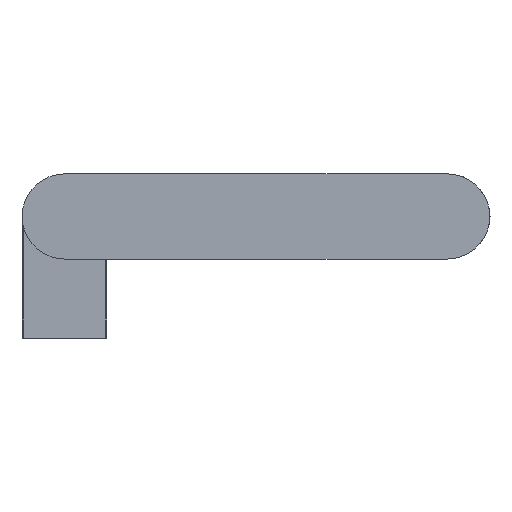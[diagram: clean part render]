
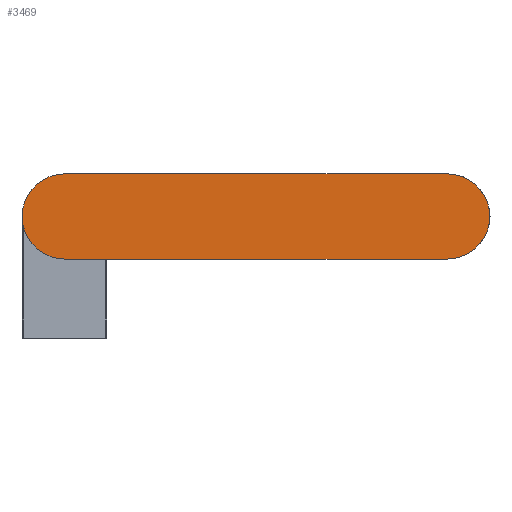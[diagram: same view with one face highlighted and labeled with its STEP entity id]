
A CAD part, left-side view. The second image highlights one B-rep face of the part: STEP entity #3469.
In plain terms, the highlighted planar face has unit normal (-1, 0, 0).
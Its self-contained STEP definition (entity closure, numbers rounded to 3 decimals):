
#1 = CARTESIAN_POINT ( 'NONE',  ( -67.996, 0.271, 9.705 ) ) ;
#101 = VERTEX_POINT ( 'NONE', #1 ) ;
#785 = ORIENTED_EDGE ( 'NONE', *, *, #1810, .F. ) ;
#970 = ORIENTED_EDGE ( 'NONE', *, *, #3416, .F. ) ;
#1101 = VECTOR ( 'NONE', #1491, 1000. ) ;
#1120 = CIRCLE ( 'NONE', #3873, 9.1 ) ;
#1130 = CARTESIAN_POINT ( 'NONE',  ( -67.996, -81.529, 0.605 ) ) ;
#1166 = CIRCLE ( 'NONE', #3535, 9.1 ) ;
#1226 = CARTESIAN_POINT ( 'NONE',  ( -67.996, -81.529, 0.605 ) ) ;
#1491 = DIRECTION ( 'NONE',  ( 0., -1., 0. ) ) ;
#1575 = AXIS2_PLACEMENT_3D ( 'NONE', #1130, #2762, #1952 ) ;
#1662 = DIRECTION ( 'NONE',  ( 0., 0., -1. ) ) ;
#1799 = CARTESIAN_POINT ( 'NONE',  ( -67.996, -81.529, -8.495 ) ) ;
#1810 = EDGE_CURVE ( 'NONE', #3256, #101, #1120, .T. ) ;
#1816 = CARTESIAN_POINT ( 'NONE',  ( -67.996, -81.529, 9.705 ) ) ;
#1834 = ORIENTED_EDGE ( 'NONE', *, *, #3529, .F. ) ;
#1945 = EDGE_CURVE ( 'NONE', #3065, #3256, #4683, .T. ) ;
#1952 = DIRECTION ( 'NONE',  ( 0., 0., -1. ) ) ;
#2094 = DIRECTION ( 'NONE',  ( 1., 0., 0. ) ) ;
#2332 = VECTOR ( 'NONE', #2821, 1000. ) ;
#2450 = EDGE_LOOP ( 'NONE', ( #1834, #970, #785, #4367 ) ) ;
#2762 = DIRECTION ( 'NONE',  ( 1., 0., 0. ) ) ;
#2821 = DIRECTION ( 'NONE',  ( 0., 1., 0. ) ) ;
#3065 = VERTEX_POINT ( 'NONE', #1799 ) ;
#3098 = CARTESIAN_POINT ( 'NONE',  ( -67.996, -81.529, 9.705 ) ) ;
#3256 = VERTEX_POINT ( 'NONE', #3262 ) ;
#3262 = CARTESIAN_POINT ( 'NONE',  ( -67.996, 0.271, -8.495 ) ) ;
#3310 = FACE_OUTER_BOUND ( 'NONE', #2450, .T. ) ;
#3416 = EDGE_CURVE ( 'NONE', #101, #4474, #4080, .T. ) ;
#3469 = ADVANCED_FACE ( 'NONE', ( #3310 ), #3577, .F. ) ;
#3529 = EDGE_CURVE ( 'NONE', #4474, #3065, #1166, .T. ) ;
#3535 = AXIS2_PLACEMENT_3D ( 'NONE', #1226, #4506, #1662 ) ;
#3577 = PLANE ( 'NONE',  #1575 ) ;
#3873 = AXIS2_PLACEMENT_3D ( 'NONE', #4171, #2094, #4951 ) ;
#4080 = LINE ( 'NONE', #3098, #1101 ) ;
#4171 = CARTESIAN_POINT ( 'NONE',  ( -67.996, 0.271, 0.605 ) ) ;
#4367 = ORIENTED_EDGE ( 'NONE', *, *, #1945, .F. ) ;
#4474 = VERTEX_POINT ( 'NONE', #1816 ) ;
#4506 = DIRECTION ( 'NONE',  ( 1., 0., 0. ) ) ;
#4683 = LINE ( 'NONE', #5380, #2332 ) ;
#4951 = DIRECTION ( 'NONE',  ( 0., 0., -1. ) ) ;
#5380 = CARTESIAN_POINT ( 'NONE',  ( -67.996, -81.529, -8.495 ) ) ;
